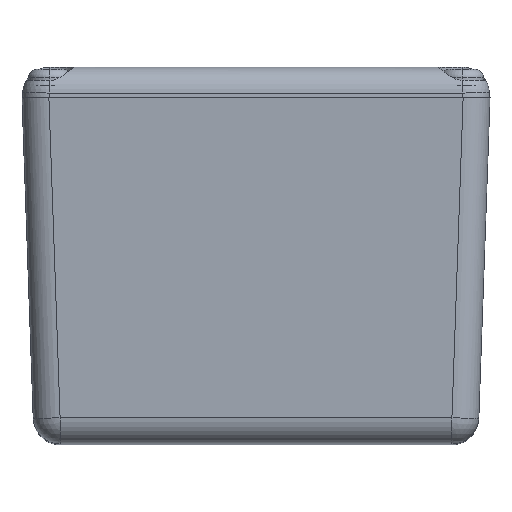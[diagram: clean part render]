
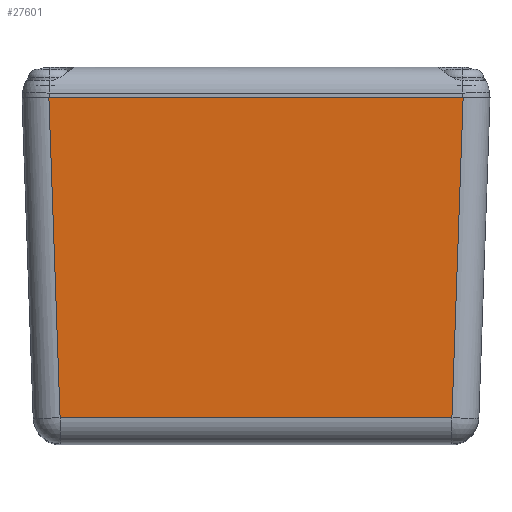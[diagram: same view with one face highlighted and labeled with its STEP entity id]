
A CAD part, top view. The second image highlights one B-rep face of the part: STEP entity #27601.
In plain terms, the highlighted planar face has unit normal (0, -0.035, 0.999).
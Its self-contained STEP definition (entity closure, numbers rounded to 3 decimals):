
#420 = LINE ( 'NONE', #4566, #16426 ) ;
#2609 = DIRECTION ( 'NONE',  ( 1., 0., 0. ) ) ;
#4566 = CARTESIAN_POINT ( 'NONE',  ( -19.255, 0.087, 31.753 ) ) ;
#5614 = FACE_OUTER_BOUND ( 'NONE', #21892, .T. ) ;
#6263 = CARTESIAN_POINT ( 'NONE',  ( -19.252, 0., 31.75 ) ) ;
#7153 = EDGE_CURVE ( 'NONE', #11111, #39694, #26744, .T. ) ;
#8878 = LINE ( 'NONE', #17296, #17135 ) ;
#9771 = CARTESIAN_POINT ( 'NONE',  ( 19.252, 0., 31.75 ) ) ;
#11111 = VERTEX_POINT ( 'NONE', #34672 ) ;
#11668 = CARTESIAN_POINT ( 'NONE',  ( -21.75, 0., 31.75 ) ) ;
#13178 = ORIENTED_EDGE ( 'NONE', *, *, #35329, .T. ) ;
#14583 = CARTESIAN_POINT ( 'NONE',  ( -21.75, 0., 31.75 ) ) ;
#16223 = VECTOR ( 'NONE', #2609, 1000. ) ;
#16426 = VECTOR ( 'NONE', #29418, 1000. ) ;
#17042 = DIRECTION ( 'NONE',  ( 0., -0.035, 0.999 ) ) ;
#17135 = VECTOR ( 'NONE', #26656, 1000. ) ;
#17176 = DIRECTION ( 'NONE',  ( 0., -0.999, -0.035 ) ) ;
#17296 = CARTESIAN_POINT ( 'NONE',  ( 20.626, -29.787, 30.71 ) ) ;
#17785 = CARTESIAN_POINT ( 'NONE',  ( -18.211, -29.787, 30.71 ) ) ;
#18328 = ORIENTED_EDGE ( 'NONE', *, *, #33182, .F. ) ;
#18802 = ORIENTED_EDGE ( 'NONE', *, *, #40219, .T. ) ;
#21475 = DIRECTION ( 'NONE',  ( 0.035, 0.999, 0.035 ) ) ;
#21892 = EDGE_LOOP ( 'NONE', ( #18328, #18802, #13178, #36604 ) ) ;
#26656 = DIRECTION ( 'NONE',  ( 1., 0., 0. ) ) ;
#26744 = LINE ( 'NONE', #39793, #27730 ) ;
#27601 = ADVANCED_FACE ( 'NONE', ( #5614 ), #30100, .T. ) ;
#27730 = VECTOR ( 'NONE', #21475, 1000. ) ;
#28861 = LINE ( 'NONE', #11668, #16223 ) ;
#29418 = DIRECTION ( 'NONE',  ( 0.035, -0.999, -0.035 ) ) ;
#30100 = PLANE ( 'NONE',  #39854 ) ;
#33182 = EDGE_CURVE ( 'NONE', #35622, #39694, #28861, .T. ) ;
#33238 = VERTEX_POINT ( 'NONE', #17785 ) ;
#34672 = CARTESIAN_POINT ( 'NONE',  ( 18.211, -29.787, 30.71 ) ) ;
#35329 = EDGE_CURVE ( 'NONE', #33238, #11111, #8878, .T. ) ;
#35622 = VERTEX_POINT ( 'NONE', #6263 ) ;
#36604 = ORIENTED_EDGE ( 'NONE', *, *, #7153, .T. ) ;
#39694 = VERTEX_POINT ( 'NONE', #9771 ) ;
#39793 = CARTESIAN_POINT ( 'NONE',  ( 19.202, -1.428, 31.7 ) ) ;
#39854 = AXIS2_PLACEMENT_3D ( 'NONE', #14583, #17042, #17176 ) ;
#40219 = EDGE_CURVE ( 'NONE', #35622, #33238, #420, .T. ) ;
